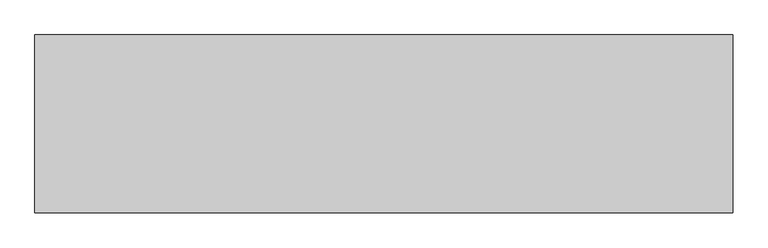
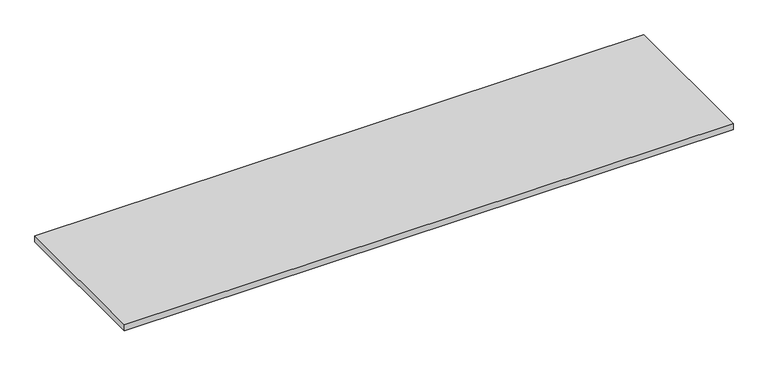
"""IFC4 building model written with IfcOpenShell, lengths in millimetres: furniture geometry, Prateleira B2 : Prateleira B2."""

from ifc_helpers import new_model, si_unit, frame, origin, place, context, project, spatial, polyline, outline, extrude, source, transform, mapped, element, save


def furniture_57f066bc(model_context):
    return source(origin(), model_context, "Body", "SweptSolid", [
        extrude(outline(polyline([(-1647.3834094, -4167.0637549), (-1647.3834094, -3617.0637549), (512.6165906, -3617.0637549), (512.6165906, -4167.0637549), (-1647.3834094, -4167.0637549)])), frame((0.0, 0.0, 484.9759733), z_axis=(0.0, 0.0, 1.0), x_axis=(1.0, 0.0, 0.0)), (0.0, 0.0, 1.0), 22.3240267),
    ])


if __name__ == "__main__":
    model = new_model("IFC4")
    model_context = context("Model", 3, world=origin())
    ifc_project = project(units=[si_unit("LENGTHUNIT", "METRE", prefix="MILLI")], contexts=[model_context])
    site = spatial("IfcSite", under=ifc_project)
    building = spatial("IfcBuilding", under=site)
    placement = place(None, origin())
    furniture_shape = furniture_57f066bc(model_context)
    element("IfcFurniture", 1, ObjectType="Prateleira B2 : Prateleira B2", at=placement, inside=building, context=model_context, shape_type="MappedRepresentation", body=[
        mapped(furniture_shape, transform((0.0, 0.0, 0.0), x_axis=(1.0, 0.0, 0.0), y_axis=(0.0, 1.0, 0.0), z_axis=(0.0, 0.0, 1.0))),
    ])
    save(model, "model.ifc")
